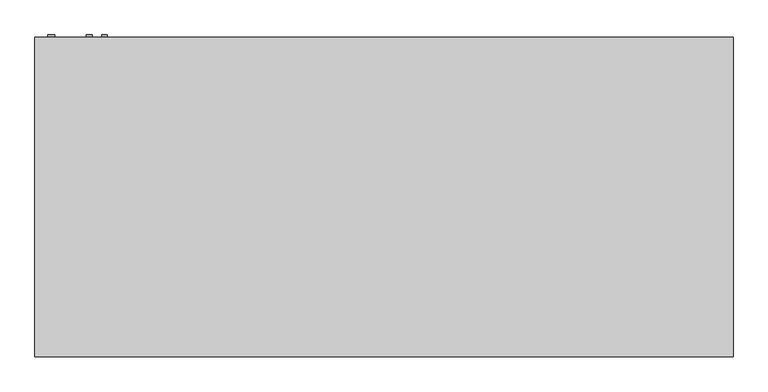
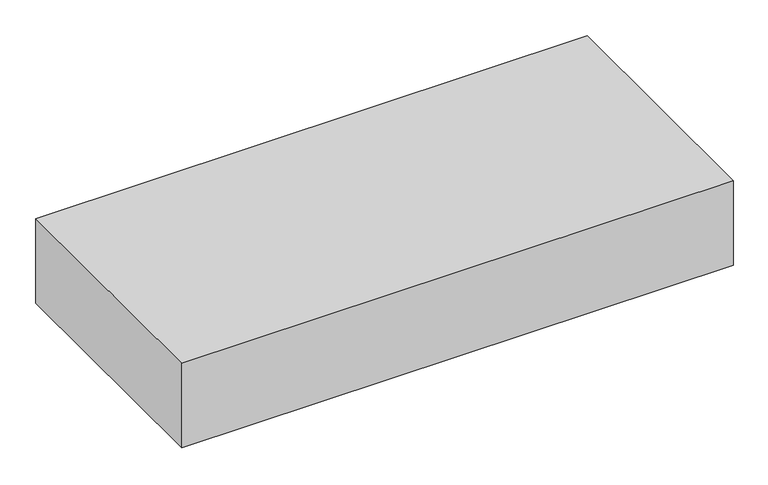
"""IFC4 building model written with IfcOpenShell, lengths in millimetres: proxy geometry, Exposed_Horizontal_Fan_Coil_Unit_-_42CGB_-_CARRIER_-_2-Pipe_Cool-EHeat_BS-BR_LH_2022 : Size 10 - 277v/60Hz/1Ph - 4 Row 8.0kW."""

import ifcopenshell
import ifcopenshell.guid

model = None  # the IFC model being written
_history = None  # IfcOwnerHistory: only IFC2X3 demands one
_inside = {}  # id of a spatial element -> (the spatial element, [elements in it])
_under = {}  # id of a project, library or spatial element -> (it, [spatial elements below it])
_declared = {}  # id of a project -> (the project, [libraries it declares])
_typed = {}  # id of a type object -> (the type object, [elements of that type])
_made_of = {}  # id of a material, layer set ... -> (it, [elements and type objects made of it])


def new_model(schema):
    """Start an empty IFC model of exactly this schema.

    Asked for "IFC4X3", IfcOpenShell would pick the latest addendum, in which some entities
    have other attributes; the version numbers below select the first issue.
    IFC2X3 requires an IfcOwnerHistory on every rooted entity: one is made here for all.
    """
    global model, _history
    if schema == "IFC4X3":
        model = ifcopenshell.file(schema_version=(4, 3, 0, 0))
    else:
        model = ifcopenshell.file(schema=schema)
    _inside.clear()
    _under.clear()
    _declared.clear()
    _typed.clear()
    _made_of.clear()
    _history = None
    if model.schema == "IFC2X3":
        org = make("IfcOrganization", Name="unknown")
        user = make(
            "IfcPersonAndOrganization",
            ThePerson=make("IfcPerson", FamilyName="unknown"),
            TheOrganization=org,
        )
        app = make(
            "IfcApplication",
            ApplicationDeveloper=org,
            Version="unknown",
            ApplicationFullName="unknown",
            ApplicationIdentifier="unknown",
        )
        _history = make(
            "IfcOwnerHistory",
            OwningUser=user,
            OwningApplication=app,
            ChangeAction="ADDED",
            CreationDate=0,
        )
    return model


def make(cls, **values):
    """One entity of the class cls with the attributes given. An attribute that is None is left unset."""
    return model.create_entity(
        cls, **{name: value for name, value in values.items() if value is not None}
    )


def rooted(cls, **values):
    """An entity with a GlobalId (a new one), such as an element, a storey or a relation."""
    return make(cls, GlobalId=ifcopenshell.guid.new(), OwnerHistory=_history, **values)


def si_unit(unit_type, name, prefix=None):
    """IfcSIUnit, for example si_unit("LENGTHUNIT", "METRE", prefix="MILLI")."""
    return make("IfcSIUnit", UnitType=unit_type, Prefix=prefix, Name=name)


def assignment(units):
    """IfcUnitAssignment: the units of a project."""
    return None if units is None else make("IfcUnitAssignment", Units=units)


def point(xyz):
    """IfcCartesianPoint."""
    return None if xyz is None else make("IfcCartesianPoint", Coordinates=xyz)


def direction(xyz):
    """IfcDirection."""
    return None if xyz is None else make("IfcDirection", DirectionRatios=xyz)


def frame(location, z_axis=None, x_axis=None):
    """IfcAxis2Placement3D, a coordinate frame: its origin and axes. An axis left out is left unset."""
    return make(
        "IfcAxis2Placement3D",
        Location=point(location),
        Axis=direction(z_axis),
        RefDirection=direction(x_axis),
    )


def frame_2d(location, x_axis=None):
    """IfcAxis2Placement2D, a coordinate frame in the plane: its origin and x axis."""
    return make(
        "IfcAxis2Placement2D", Location=point(location), RefDirection=direction(x_axis)
    )


def origin():
    """The frame at (0, 0, 0) with its axes left unset."""
    return frame((0.0, 0.0, 0.0))


def place(relative_to, where):
    """IfcLocalPlacement: puts the frame where relative to a parent placement (None: the world)."""
    return make(
        "IfcLocalPlacement", PlacementRelTo=relative_to, RelativePlacement=where
    )


def context(
    kind, dimensions, precision=None, world=None, true_north=None, identifier=None
):
    """IfcGeometricRepresentationContext, for example the 3D "Model" context."""
    return make(
        "IfcGeometricRepresentationContext",
        ContextIdentifier=identifier,
        ContextType=kind,
        CoordinateSpaceDimension=dimensions,
        Precision=precision,
        WorldCoordinateSystem=world,
        TrueNorth=true_north,
    )


def project(units=None, contexts=None):
    """IfcProject with its units and contexts."""
    return rooted(
        "IfcProject",
        Name="project",
        RepresentationContexts=contexts,
        UnitsInContext=assignment(units),
    )


def spatial(cls, under=None, at=None, **own):
    """A site, building, storey or space (cls), placed at a placement, below another one or the project."""
    s = rooted(cls, ObjectPlacement=at, **own)
    if under is not None:
        _under.setdefault(under.id(), (under, []))[1].append(s)
    return s


def polyline(points):
    """IfcPolyline through the points."""
    return make("IfcPolyline", Points=[point(p) for p in points])


def circle_curve(where, radius):
    """IfcCircle in the frame where."""
    return make("IfcCircle", Position=where, Radius=radius)


def trimmed(basis, trim1, trim2, sense, master):
    """IfcTrimmedCurve: the piece of a basis curve between two trims."""
    return make(
        "IfcTrimmedCurve",
        BasisCurve=basis,
        Trim1=trim1,
        Trim2=trim2,
        SenseAgreement=sense,
        MasterRepresentation=master,
    )


def segment(curve, same_sense, transition):
    """IfcCompositeCurveSegment."""
    return make(
        "IfcCompositeCurveSegment",
        Transition=transition,
        SameSense=same_sense,
        ParentCurve=curve,
    )


def composite_curve(segments, self_intersect=None):
    """IfcCompositeCurve: segments joined end to end."""
    return make("IfcCompositeCurve", Segments=segments, SelfIntersect=self_intersect)


def outline(outer, holes=None, kind="AREA"):
    """IfcArbitraryClosedProfileDef: a profile drawn as a closed curve; with holes, ...WithVoids."""
    if holes is None:
        return make("IfcArbitraryClosedProfileDef", ProfileType=kind, OuterCurve=outer)
    return make(
        "IfcArbitraryProfileDefWithVoids",
        ProfileType=kind,
        OuterCurve=outer,
        InnerCurves=holes,
    )


def extrude(swept, where, along, depth):
    """IfcExtrudedAreaSolid: the profile swept, set in the frame where, extruded along a direction by depth."""
    return make(
        "IfcExtrudedAreaSolid",
        SweptArea=swept,
        Position=where,
        ExtrudedDirection=direction(along),
        Depth=depth,
    )


def shape(context_of_items, identifier, shape_type, items):
    """IfcShapeRepresentation: the items that make up one representation, for example the "Body"."""
    return make(
        "IfcShapeRepresentation",
        ContextOfItems=context_of_items,
        RepresentationIdentifier=identifier,
        RepresentationType=shape_type,
        Items=items,
    )


def source(mapping_origin, context_of_items, identifier, shape_type, items):
    """IfcRepresentationMap: a shape defined once, which mapped items show again and again."""
    return make(
        "IfcRepresentationMap",
        MappingOrigin=mapping_origin,
        MappedRepresentation=shape(context_of_items, identifier, shape_type, items),
    )


def transform(
    local_origin,
    x_axis=None,
    y_axis=None,
    z_axis=None,
    scale=None,
    scale2=None,
    scale3=None,
    uniform=True,
):
    """IfcCartesianTransformationOperator3D, or its non-uniform kind. x_axis, y_axis, z_axis: its Axis1, 2, 3."""
    if uniform:
        return make(
            "IfcCartesianTransformationOperator3D",
            Axis1=direction(x_axis),
            Axis2=direction(y_axis),
            LocalOrigin=point(local_origin),
            Scale=scale,
            Axis3=direction(z_axis),
        )
    return make(
        "IfcCartesianTransformationOperator3DnonUniform",
        Axis1=direction(x_axis),
        Axis2=direction(y_axis),
        LocalOrigin=point(local_origin),
        Scale=scale,
        Axis3=direction(z_axis),
        Scale2=scale2,
        Scale3=scale3,
    )


def mapped(mapping_source, mapping_target):
    """IfcMappedItem: shows the shape of a source again, moved by a transform."""
    return make(
        "IfcMappedItem", MappingSource=mapping_source, MappingTarget=mapping_target
    )


def made_of(thing, what):
    """Note that an element or type object is made of a material, layer set ...; save() writes the relation."""
    if what is not None:
        _made_of.setdefault(what.id(), (what, []))[1].append(thing)
    return thing


def element(
    cls,
    number,
    at=None,
    inside=None,
    cuts=None,
    type_object=None,
    material=None,
    context=None,
    identifier="Body",
    shape_type=None,
    held_by="IfcProductDefinitionShape",
    body=None,
    shapes=None,
    **own,
):
    """One element of the class cls, such as IfcWall. Its Tag is "e" and its number.

    at: its placement. inside: the storey or other place that contains it. cuts: it is an
    opening in that element (IfcRelVoidsElement). A single representation is given by context,
    identifier, shape_type and body (its items); several are given by shapes. held_by: the class
    of the entity that holds the representations. save() writes the other relations.
    """
    e = rooted(cls, Tag="e%d" % number, ObjectPlacement=at, **own)
    if body is not None:
        shapes = [shape(context, identifier, shape_type, body)]
    if shapes is not None:
        e.Representation = make(held_by, Representations=shapes)
    if inside is not None:
        _inside.setdefault(inside.id(), (inside, []))[1].append(e)
    if cuts is not None:
        rooted(
            "IfcRelVoidsElement", RelatingBuildingElement=cuts, RelatedOpeningElement=e
        )
    if type_object is not None:
        _typed.setdefault(type_object.id(), (type_object, []))[1].append(e)
    return made_of(e, material)


def aggregate(whole, parts):
    """IfcRelAggregates: a whole, such as a stair, and the parts it consists of."""
    return rooted("IfcRelAggregates", RelatingObject=whole, RelatedObjects=parts)


def save(model, path):
    """Write the relations noted so far, then the file.

    IfcRelAggregates (storeys below a building ...), IfcRelContainedInSpatialStructure (elements
    in a storey), IfcRelDefinesByType, IfcRelAssociatesMaterial and IfcRelDeclares: one each for
    every whole, place, type object, material and project.
    """
    for whole, parts in _under.values():
        aggregate(whole, parts)
    for where, things in _inside.values():
        rooted(
            "IfcRelContainedInSpatialStructure",
            RelatedElements=things,
            RelatingStructure=where,
        )
    for kind, things in _typed.values():
        rooted("IfcRelDefinesByType", RelatedObjects=things, RelatingType=kind)
    for what, things in _made_of.values():
        rooted("IfcRelAssociatesMaterial", RelatedObjects=things, RelatingMaterial=what)
    for by, libraries in _declared.values():
        rooted("IfcRelDeclares", RelatingContext=by, RelatedDefinitions=libraries)
    model.write(path)


def mechanical_equipment_e0740a78(model_context):
    return source(origin(), model_context, "Body", "SweptSolid", [
        extrude(outline(polyline([(814.3875, -433.3875), (814.3875, -604.8375), (-509.5875, -604.8375), (-509.5875, -433.3875), (814.3875, -433.3875)])), frame((0.0, 0.0, -311.15), z_axis=(0.0, 0.0, 1.0), x_axis=(1.0, 0.0, 0.0)), (0.0, 0.0, 1.0), 6.35),
        extrude(outline(composite_curve([segment(trimmed(circle_curve(frame_2d((-60.325, -600.075)), 7.9375), [point((-60.325, -592.1375))], [point((-60.325, -608.0125))], False, "CARTESIAN"), True, "CONTINUOUS"), segment(trimmed(circle_curve(frame_2d((-60.325, -600.075)), 7.9375), [point((-60.325, -608.0125))], [point((-60.325, -592.1375))], False, "CARTESIAN"), True, "CONTINUOUS")], self_intersect=False)), frame((0.0, 192.0875, 0.0), z_axis=(0.0, 1.0, 0.0), x_axis=(0.0, 0.0, 1.0)), (0.0, 0.0, 1.0), 6.35),
        extrude(outline(composite_curve([segment(trimmed(circle_curve(frame_2d((-95.25, -641.35)), 7.9375), [point((-95.25, -633.4125))], [point((-95.25, -649.2875))], False, "CARTESIAN"), True, "CONTINUOUS"), segment(trimmed(circle_curve(frame_2d((-95.25, -641.35)), 7.9375), [point((-95.25, -649.2875))], [point((-95.25, -633.4125))], False, "CARTESIAN"), True, "CONTINUOUS")], self_intersect=False)), frame((0.0, 192.0875, 0.0), z_axis=(0.0, 1.0, 0.0), x_axis=(0.0, 0.0, 1.0)), (0.0, 0.0, 1.0), 6.35),
        extrude(outline(composite_curve([segment(trimmed(circle_curve(frame_2d((-260.35, -742.95)), 9.525), [point((-260.35, -733.425))], [point((-260.35, -752.475))], False, "CARTESIAN"), True, "CONTINUOUS"), segment(trimmed(circle_curve(frame_2d((-260.35, -742.95)), 9.525), [point((-260.35, -752.475))], [point((-260.35, -733.425))], False, "CARTESIAN"), True, "CONTINUOUS")], self_intersect=False)), frame((0.0, 192.0875, 0.0), z_axis=(0.0, 1.0, 0.0), x_axis=(0.0, 0.0, 1.0)), (0.0, 0.0, 1.0), 6.35),
        extrude(outline(polyline([(-787.4, 192.0875), (1092.2, 192.0875), (1092.2, -668.3375), (-787.4, -668.3375), (-787.4, 192.0875)])), frame((0.0, 0.0, -304.8), z_axis=(0.0, 0.0, 1.0), x_axis=(1.0, 0.0, 0.0)), (0.0, 0.0, 1.0), 304.8),
        extrude(outline(polyline([(844.55, 115.8875), (844.55, -138.1125), (-539.75, -138.1125), (-539.75, 115.8875), (844.55, 115.8875)])), frame((0.0, 0.0, -311.15), z_axis=(0.0, 0.0, 1.0), x_axis=(1.0, 0.0, 0.0)), (0.0, 0.0, 1.0), 6.35),
    ])


if __name__ == "__main__":
    model = new_model("IFC4")
    model_context = context("Model", 3, world=origin())
    ifc_project = project(units=[si_unit("LENGTHUNIT", "METRE", prefix="MILLI")], contexts=[model_context])
    site = spatial("IfcSite", under=ifc_project)
    building = spatial("IfcBuilding", under=site)
    placement = place(None, origin())
    mechanical_equipment_shape = mechanical_equipment_e0740a78(model_context)
    element("IfcBuildingElementProxy", 1, Name="Exposed_Horizontal_Fan_Coil_Unit_-_42CGB_-_CARRIER_-_2-Pipe_Cool-EHeat_BS-BR_LH_2022 : Size 10 - 277v/60Hz/1Ph - 4 Row 8.0kW", ObjectType="Exposed_Horizontal_Fan_Coil_Unit_-_42CGB_-_CARRIER_-_2-Pipe_Cool-EHeat_BS-BR_LH_2022 : Size 10 - 277v/60Hz/1Ph - 4 Row 8.0kW", at=placement, inside=building, context=model_context, shape_type="MappedRepresentation", body=[
        mapped(mechanical_equipment_shape, transform((0.0, 0.0, 0.0), x_axis=(1.0, 0.0, 0.0), y_axis=(0.0, 1.0, 0.0), z_axis=(0.0, 0.0, 1.0))),
    ])
    save(model, "model.ifc")
